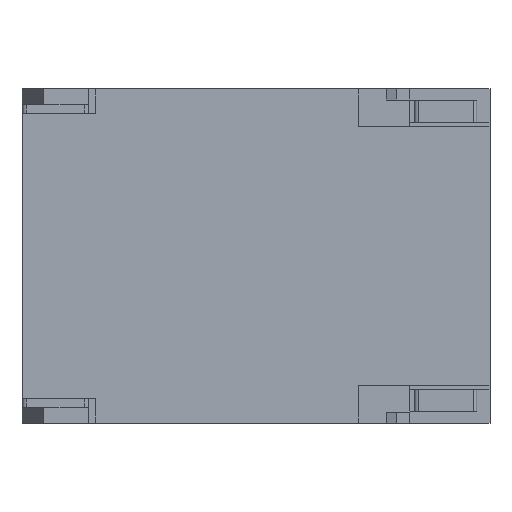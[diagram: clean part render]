
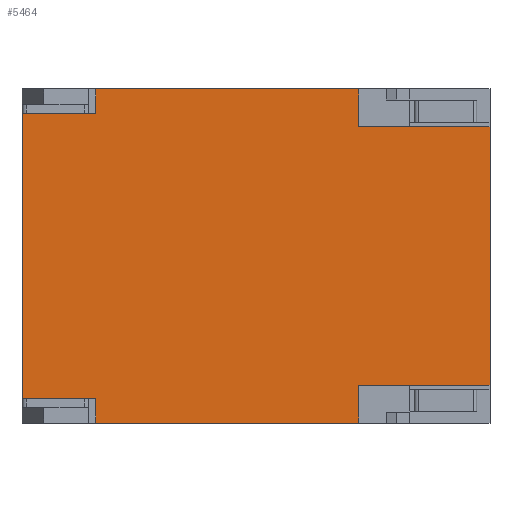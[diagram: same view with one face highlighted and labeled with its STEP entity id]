
A CAD part, front view. The second image highlights one B-rep face of the part: STEP entity #5464.
In plain terms, the highlighted planar face has unit normal (0, -1, 0).
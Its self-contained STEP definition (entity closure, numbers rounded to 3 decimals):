
#117 = LINE ( 'NONE', #2007, #2493 ) ;
#156 = VECTOR ( 'NONE', #3289, 1000. ) ;
#281 = LINE ( 'NONE', #2005, #5002 ) ;
#345 = EDGE_CURVE ( 'NONE', #4919, #1078, #5440, .T. ) ;
#356 = VERTEX_POINT ( 'NONE', #3336 ) ;
#509 = VECTOR ( 'NONE', #5003, 1000. ) ;
#626 = EDGE_CURVE ( 'NONE', #1822, #2292, #117, .T. ) ;
#659 = VECTOR ( 'NONE', #3837, 1000. ) ;
#747 = LINE ( 'NONE', #3644, #4643 ) ;
#824 = VERTEX_POINT ( 'NONE', #898 ) ;
#894 = VECTOR ( 'NONE', #1643, 1000. ) ;
#898 = CARTESIAN_POINT ( 'NONE',  ( -3.6, 0., 3.2 ) ) ;
#925 = LINE ( 'NONE', #3931, #4819 ) ;
#1078 = VERTEX_POINT ( 'NONE', #4604 ) ;
#1124 = CARTESIAN_POINT ( 'NONE',  ( 2.3, 0., -3.75 ) ) ;
#1147 = CARTESIAN_POINT ( 'NONE',  ( 0., 0., -3.2 ) ) ;
#1365 = VECTOR ( 'NONE', #4297, 1000. ) ;
#1439 = LINE ( 'NONE', #2196, #4465 ) ;
#1530 = ORIENTED_EDGE ( 'NONE', *, *, #5219, .F. ) ;
#1643 = DIRECTION ( 'NONE',  ( 1., 0., 0. ) ) ;
#1655 = LINE ( 'NONE', #2514, #1365 ) ;
#1712 = CARTESIAN_POINT ( 'NONE',  ( -5.25, 0., 0. ) ) ;
#1762 = CARTESIAN_POINT ( 'NONE',  ( 5.25, 0., 2.9 ) ) ;
#1799 = ORIENTED_EDGE ( 'NONE', *, *, #4779, .T. ) ;
#1822 = VERTEX_POINT ( 'NONE', #5400 ) ;
#1975 = EDGE_CURVE ( 'NONE', #5310, #4743, #1655, .T. ) ;
#2005 = CARTESIAN_POINT ( 'NONE',  ( 2.3, 0., -2.9 ) ) ;
#2007 = CARTESIAN_POINT ( 'NONE',  ( 0., 0., -3.75 ) ) ;
#2120 = LINE ( 'NONE', #4290, #659 ) ;
#2196 = CARTESIAN_POINT ( 'NONE',  ( 3.45, 0., -2.9 ) ) ;
#2198 = PLANE ( 'NONE',  #3463 ) ;
#2232 = VERTEX_POINT ( 'NONE', #2386 ) ;
#2292 = VERTEX_POINT ( 'NONE', #1124 ) ;
#2312 = ORIENTED_EDGE ( 'NONE', *, *, #626, .T. ) ;
#2384 = DIRECTION ( 'NONE',  ( 0., 0., 1. ) ) ;
#2386 = CARTESIAN_POINT ( 'NONE',  ( -3.6, 0., 3.75 ) ) ;
#2426 = EDGE_CURVE ( 'NONE', #5039, #3102, #2120, .T. ) ;
#2493 = VECTOR ( 'NONE', #4426, 1000. ) ;
#2514 = CARTESIAN_POINT ( 'NONE',  ( 2.3, 0., 2.9 ) ) ;
#2680 = ORIENTED_EDGE ( 'NONE', *, *, #4614, .F. ) ;
#2693 = ORIENTED_EDGE ( 'NONE', *, *, #4447, .F. ) ;
#2868 = ORIENTED_EDGE ( 'NONE', *, *, #4664, .T. ) ;
#3004 = ORIENTED_EDGE ( 'NONE', *, *, #1975, .F. ) ;
#3038 = VERTEX_POINT ( 'NONE', #5079 ) ;
#3102 = VERTEX_POINT ( 'NONE', #1762 ) ;
#3128 = DIRECTION ( 'NONE',  ( 0., 0., 1. ) ) ;
#3176 = DIRECTION ( 'NONE',  ( 0., 0., 1. ) ) ;
#3229 = ORIENTED_EDGE ( 'NONE', *, *, #2426, .T. ) ;
#3266 = CARTESIAN_POINT ( 'NONE',  ( -5.25, 0., -3.2 ) ) ;
#3289 = DIRECTION ( 'NONE',  ( 1., 0., 0. ) ) ;
#3336 = CARTESIAN_POINT ( 'NONE',  ( 2.3, 0., -2.9 ) ) ;
#3463 = AXIS2_PLACEMENT_3D ( 'NONE', #4016, #4438, #3176 ) ;
#3480 = VECTOR ( 'NONE', #2384, 1000. ) ;
#3517 = ORIENTED_EDGE ( 'NONE', *, *, #3990, .F. ) ;
#3617 = CARTESIAN_POINT ( 'NONE',  ( 2.3, 0., 3.75 ) ) ;
#3644 = CARTESIAN_POINT ( 'NONE',  ( 0., 0., 3.2 ) ) ;
#3646 = CARTESIAN_POINT ( 'NONE',  ( -3.6, 0., 3.2 ) ) ;
#3705 = LINE ( 'NONE', #5426, #156 ) ;
#3710 = DIRECTION ( 'NONE',  ( 0., 0., -1. ) ) ;
#3714 = EDGE_CURVE ( 'NONE', #824, #3038, #747, .T. ) ;
#3837 = DIRECTION ( 'NONE',  ( 0., 0., 1. ) ) ;
#3931 = CARTESIAN_POINT ( 'NONE',  ( 0., 0., 3.75 ) ) ;
#3939 = LINE ( 'NONE', #4867, #5089 ) ;
#3956 = DIRECTION ( 'NONE',  ( -1., 0., 0. ) ) ;
#3979 = LINE ( 'NONE', #3646, #3480 ) ;
#3990 = EDGE_CURVE ( 'NONE', #1822, #1078, #3939, .T. ) ;
#4016 = CARTESIAN_POINT ( 'NONE',  ( 0., 0., 0. ) ) ;
#4290 = CARTESIAN_POINT ( 'NONE',  ( 5.25, 0., 0. ) ) ;
#4294 = ORIENTED_EDGE ( 'NONE', *, *, #5034, .F. ) ;
#4297 = DIRECTION ( 'NONE',  ( 0., 0., -1. ) ) ;
#4336 = FACE_OUTER_BOUND ( 'NONE', #5136, .T. ) ;
#4426 = DIRECTION ( 'NONE',  ( 1., 0., 0. ) ) ;
#4438 = DIRECTION ( 'NONE',  ( 0., -1., 0. ) ) ;
#4447 = EDGE_CURVE ( 'NONE', #5039, #356, #1439, .T. ) ;
#4465 = VECTOR ( 'NONE', #4861, 1000. ) ;
#4603 = CARTESIAN_POINT ( 'NONE',  ( 5.25, 0., -2.9 ) ) ;
#4604 = CARTESIAN_POINT ( 'NONE',  ( -3.6, 0., -3.2 ) ) ;
#4614 = EDGE_CURVE ( 'NONE', #356, #2292, #281, .T. ) ;
#4643 = VECTOR ( 'NONE', #5465, 1000. ) ;
#4664 = EDGE_CURVE ( 'NONE', #3038, #4919, #4666, .T. ) ;
#4666 = LINE ( 'NONE', #1712, #509 ) ;
#4743 = VERTEX_POINT ( 'NONE', #5192 ) ;
#4779 = EDGE_CURVE ( 'NONE', #5310, #2232, #925, .T. ) ;
#4819 = VECTOR ( 'NONE', #3956, 1000. ) ;
#4861 = DIRECTION ( 'NONE',  ( -1., 0., 0. ) ) ;
#4867 = CARTESIAN_POINT ( 'NONE',  ( -3.6, 0., -3.2 ) ) ;
#4919 = VERTEX_POINT ( 'NONE', #3266 ) ;
#5002 = VECTOR ( 'NONE', #3710, 1000. ) ;
#5003 = DIRECTION ( 'NONE',  ( 0., 0., -1. ) ) ;
#5034 = EDGE_CURVE ( 'NONE', #4743, #3102, #3705, .T. ) ;
#5039 = VERTEX_POINT ( 'NONE', #4603 ) ;
#5079 = CARTESIAN_POINT ( 'NONE',  ( -5.25, 0., 3.2 ) ) ;
#5080 = ORIENTED_EDGE ( 'NONE', *, *, #345, .T. ) ;
#5089 = VECTOR ( 'NONE', #3128, 1000. ) ;
#5136 = EDGE_LOOP ( 'NONE', ( #5080, #3517, #2312, #2680, #2693, #3229, #4294, #3004, #1799, #1530, #5424, #2868 ) ) ;
#5192 = CARTESIAN_POINT ( 'NONE',  ( 2.3, 0., 2.9 ) ) ;
#5219 = EDGE_CURVE ( 'NONE', #824, #2232, #3979, .T. ) ;
#5310 = VERTEX_POINT ( 'NONE', #3617 ) ;
#5400 = CARTESIAN_POINT ( 'NONE',  ( -3.6, 0., -3.75 ) ) ;
#5424 = ORIENTED_EDGE ( 'NONE', *, *, #3714, .T. ) ;
#5426 = CARTESIAN_POINT ( 'NONE',  ( 3.45, 0., 2.9 ) ) ;
#5440 = LINE ( 'NONE', #1147, #894 ) ;
#5464 = ADVANCED_FACE ( 'NONE', ( #4336 ), #2198, .T. ) ;
#5465 = DIRECTION ( 'NONE',  ( -1., 0., 0. ) ) ;
